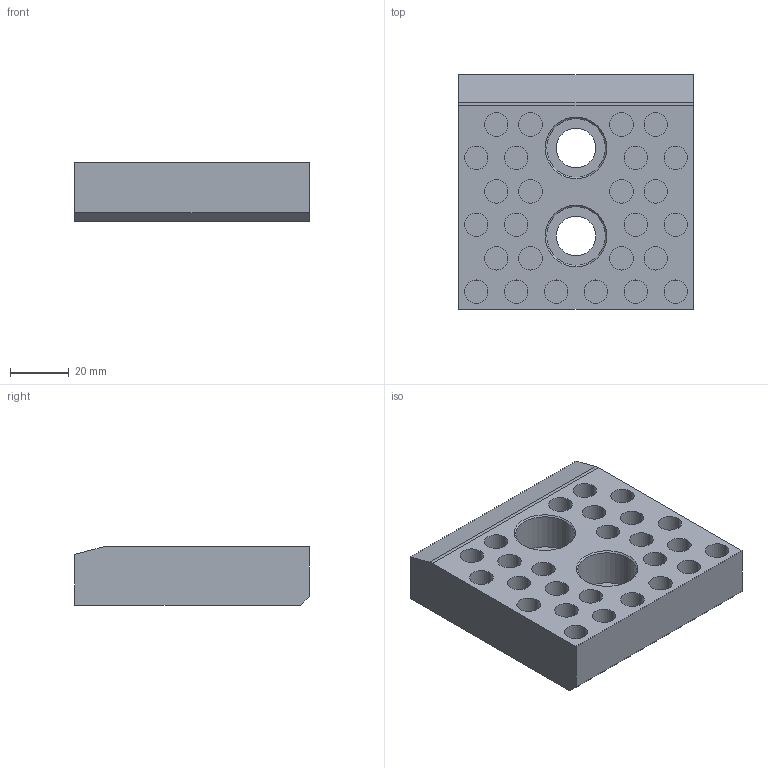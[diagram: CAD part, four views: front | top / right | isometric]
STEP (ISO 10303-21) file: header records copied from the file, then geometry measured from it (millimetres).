
FILE_DESCRIPTION (( 'STEP AP214' ), '1' );
FILE_NAME ('SW224-01-80x80.STEP', '2020-10-14T13:39:15', ( 'August' ), ( '' ), 'SwSTEP 2.0', 'SolidWorks 2018', '' );
FILE_SCHEMA (( 'AUTOMOTIVE_DESIGN' ));
Length unit declared in the file: millimetre
Products named in the file (1): SW224-01-80x80
Bounding box: 80 x 80 x 20 mm (x, y, z)
Volume: 107491.7 mm3; surface area: 24899 mm2
Topology: 1 solids, 1 shells, 101 faces, 209 edges, 138 vertices
Faces by surface type: cylinder 61, plane 36, cone 4
Entity records: 3032 total; most frequent: DIRECTION 539, CARTESIAN_POINT 449, ORIENTED_EDGE 418, AXIS2_PLACEMENT_3D 228, EDGE_CURVE 209, VERTEX_POINT 138, EDGE_LOOP 133, CIRCLE 126
